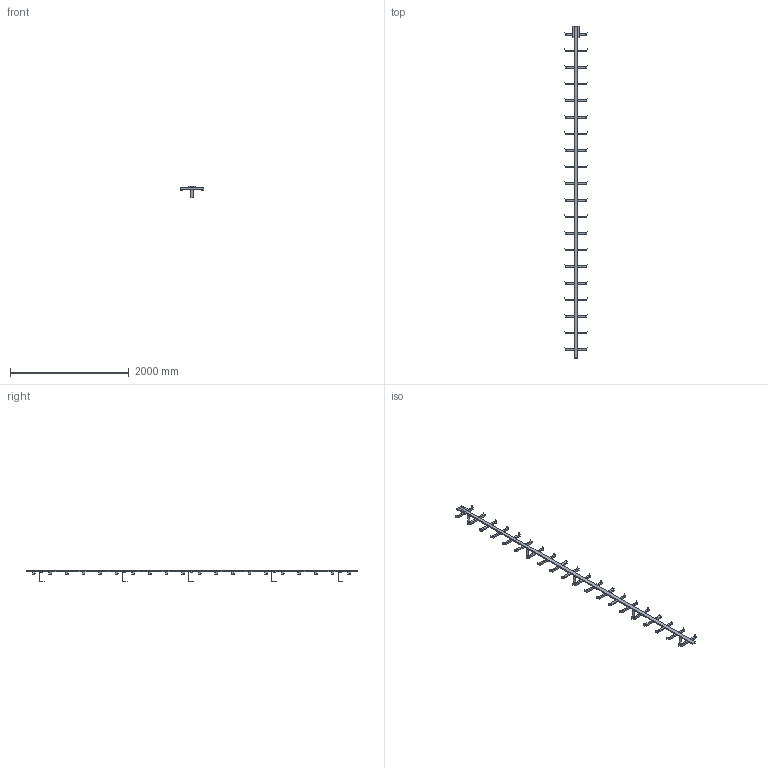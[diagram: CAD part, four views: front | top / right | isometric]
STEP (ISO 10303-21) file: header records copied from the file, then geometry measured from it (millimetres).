
FILE_DESCRIPTION((''),'2;1');
FILE_NAME('017_000114','2017-08-01T',('set'),('HUBER SE'),'PRO/ENGINEER BY PARAMETRIC TECHNOLOGY CORPORATION, 2015280','PRO/ENGINEER BY PARAMETRIC TECHNOLOGY CORPORATION, 2015280','');
FILE_SCHEMA(('CONFIG_CONTROL_DESIGN'));
Length unit declared in the file: millimetre
Products named in the file (1): 017_000114
Bounding box: 394 x 5600 x 195 mm (x, y, z)
Volume: 14867285.8 mm3; surface area: 2016989.1 mm2
Topology: 1 solids, 1 shells, 539 faces, 1615 edges, 1083 vertices
Faces by surface type: plane 539
Entity records: 17554 total; most frequent: CARTESIAN_POINT 3278, ORIENTED_EDGE 3028, DIRECTION 2648, VECTOR 1568, LINE 1568, EDGE_CURVE 1514, VERTEX_POINT 982, EDGE_LOOP 544
